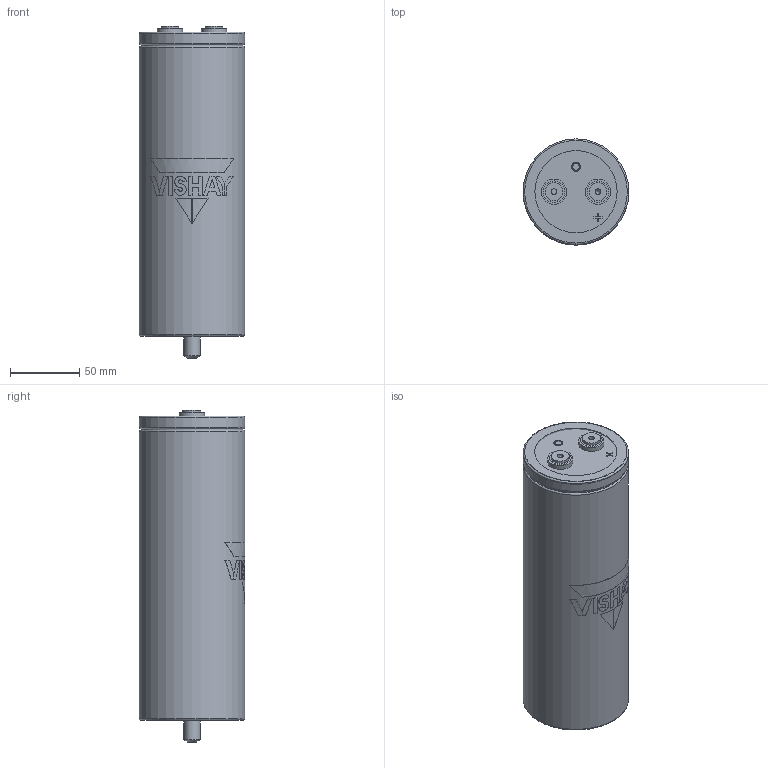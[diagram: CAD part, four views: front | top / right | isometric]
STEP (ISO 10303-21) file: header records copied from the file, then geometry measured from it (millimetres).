
FILE_DESCRIPTION(('FreeCAD Model'),'2;1');
FILE_NAME('C:/Users/tvandesteeg/Documents/Documents/FreeCAD/Stepfiles/ST capacitors/STB_LP_13mm_M5_76x220.step','2020-12-14T17:09:32',('Author'), (''),'Open CASCADE STEP processor 7.3','FreeCAD','Unknown');
FILE_SCHEMA(('AUTOMOTIVE_DESIGN { 1 0 10303 214 1 1 1 1 }'));
Length unit declared in the file: millimetre
Products named in the file (8): VentBody; TerminalBody_(Mirror_#2); TerminalBody; TerminalHole; Disc; LogoPrint; CanBody; STBBottomBody
Bounding box: 76.4 x 76.5 x 240 mm (x, y, z)
Volume: 1011904 mm3; surface area: 91240.2 mm2
Topology: 18 solids, 18 shells, 155 faces, 321 edges, 211 vertices
Faces by surface type: plane 96, cylinder 50, torus 5, cone 4
Full cylindrical faces by diameter (mm): 4.2 x2, 5 x2, 11.966 x1, 13 x2, 15.65 x7, 18.3 x2, 59.422 x3, 72 x2, 74.2 x1, 76.4 x2
Entity records: 10900 total; most frequent: CARTESIAN_POINT 3392, DIRECTION 1245, ORIENTED_EDGE 638, PCURVE 638, DEFINITIONAL_REPRESENTATION 638, LINE 547, VECTOR 547, EDGE_CURVE 319
